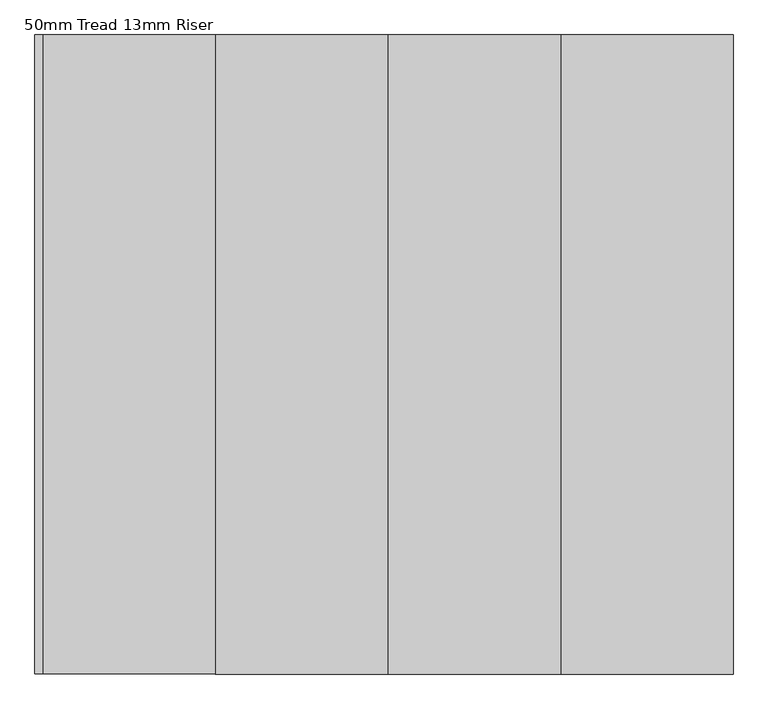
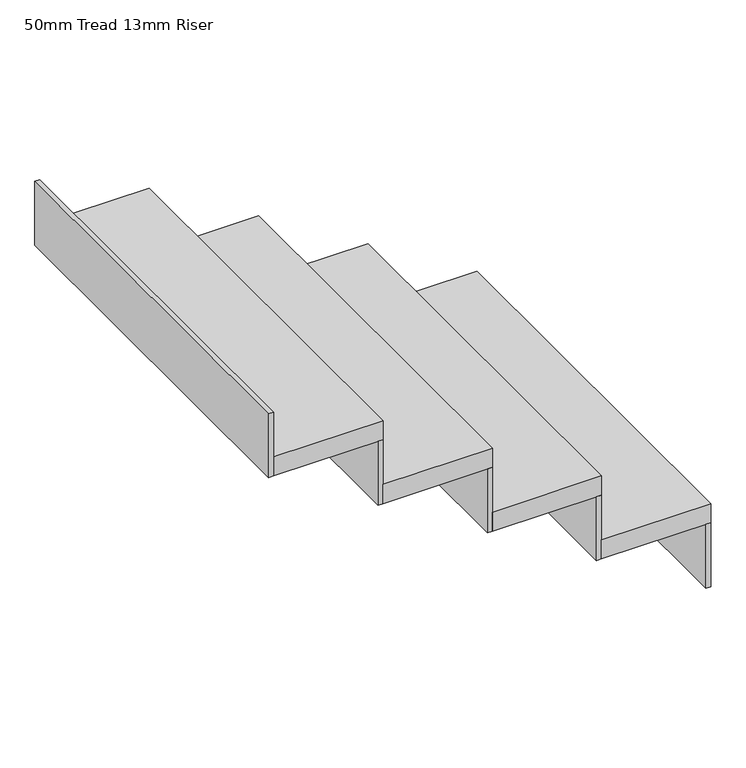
"""IFC4 building model written with IfcOpenShell, lengths in millimetres: stair flight geometry, 50mm Tread 13mm Riser."""

from ifc_helpers import new_model, si_unit, frame, origin, place, context, project, spatial, polyline, outline, extrude, source, transform, mapped, element, save


def stair_flight_50mm_tread_13mm_riser_ea8bbd4d(model_context):
    return source(origin(), model_context, "Body", "SweptSolid", [
        extrude(outline(polyline([(-111901.4400112, 13172.4703498), (-111888.9400112, 13172.4703498), (-111888.9400112, 12172.4703498), (-111901.4400112, 12172.4703498), (-111901.4400112, 13172.4703498)])), frame((0.0, 0.0, 47120.0), z_axis=(0.0, 0.0, 1.0), x_axis=(1.0, 0.0, 0.0)), (0.0, 0.0, 1.0), 166.6666667),
        extrude(outline(polyline([(-112158.9400112, 12172.4703498), (-112158.9400112, 13172.4703498), (-111888.9400112, 13172.4703498), (-111888.9400112, 12172.4703498), (-112158.9400112, 12172.4703498)])), frame((0.0, 0.0, 47286.6666667), z_axis=(0.0, 0.0, 1.0), x_axis=(1.0, 0.0, 0.0)), (0.0, 0.0, 1.0), 50.0),
        extrude(outline(polyline([(-112171.4400112, 13172.4703498), (-112158.9400112, 13172.4703498), (-112158.9400112, 12172.4703498), (-112171.4400112, 12172.4703498), (-112171.4400112, 13172.4703498)])), frame((0.0, 0.0, 47286.6666667), z_axis=(0.0, 0.0, 1.0), x_axis=(1.0, 0.0, 0.0)), (0.0, 0.0, 1.0), 166.6666667),
        extrude(outline(polyline([(-112428.9400112, 12172.4703498), (-112428.9400112, 13172.4703498), (-112158.9400112, 13172.4703498), (-112158.9400112, 12172.4703498), (-112428.9400112, 12172.4703498)])), frame((0.0, 0.0, 47453.3333333), z_axis=(0.0, 0.0, 1.0), x_axis=(1.0, 0.0, 0.0)), (0.0, 0.0, 1.0), 50.0),
        extrude(outline(polyline([(-112441.4400112, 13172.4703498), (-112428.9400112, 13172.4703498), (-112428.9400112, 12172.4703498), (-112441.4400112, 12172.4703498), (-112441.4400112, 13172.4703498)])), frame((0.0, 0.0, 47453.3333333), z_axis=(0.0, 0.0, 1.0), x_axis=(1.0, 0.0, 0.0)), (0.0, 0.0, 1.0), 166.6666667),
        extrude(outline(polyline([(-112698.9400112, 12172.4703498), (-112698.9400112, 13172.4703498), (-112428.9400112, 13172.4703498), (-112428.9400112, 12172.4703498), (-112698.9400112, 12172.4703498)])), frame((0.0, 0.0, 47620.0), z_axis=(0.0, 0.0, 1.0), x_axis=(1.0, 0.0, 0.0)), (0.0, 0.0, 1.0), 50.0),
        extrude(outline(polyline([(-112711.4400112, 13172.4703498), (-112698.9400112, 13172.4703498), (-112698.9400112, 12172.4703498), (-112711.4400112, 12172.4703498), (-112711.4400112, 13172.4703498)])), frame((0.0, 0.0, 47620.0), z_axis=(0.0, 0.0, 1.0), x_axis=(1.0, 0.0, 0.0)), (0.0, 0.0, 1.0), 166.6666667),
        extrude(outline(polyline([(-112981.4400112, 13172.4703498), (-112968.9400112, 13172.4703498), (-112968.9400112, 12172.4703498), (-112981.4400112, 12172.4703498), (-112981.4400112, 13172.4703498)])), frame((0.0, 0.0, 47786.6666667), z_axis=(0.0, 0.0, 1.0), x_axis=(1.0, 0.0, 0.0)), (0.0, 0.0, 1.0), 166.6666667),
        extrude(outline(polyline([(-112968.9400112, 12172.4703498), (-112968.9400112, 13172.4703498), (-112698.9400112, 13172.4703498), (-112698.9400112, 12172.4703498), (-112968.9400112, 12172.4703498)])), frame((0.0, 0.0, 47786.6666667), z_axis=(0.0, 0.0, 1.0), x_axis=(1.0, 0.0, 0.0)), (0.0, 0.0, 1.0), 50.0),
    ])


if __name__ == "__main__":
    model = new_model("IFC4")
    model_context = context("Model", 3, world=origin())
    ifc_project = project(units=[si_unit("LENGTHUNIT", "METRE", prefix="MILLI")], contexts=[model_context])
    site = spatial("IfcSite", under=ifc_project)
    building = spatial("IfcBuilding", under=site)
    placement = place(None, origin())
    stair_flight_50mm_tread_13mm_riser_shape = stair_flight_50mm_tread_13mm_riser_ea8bbd4d(model_context)
    element("IfcStairFlight", 1, ObjectType="50mm Tread 13mm Riser", at=placement, inside=building, context=model_context, shape_type="MappedRepresentation", body=[
        mapped(stair_flight_50mm_tread_13mm_riser_shape, transform((0.0, 0.0, 0.0), x_axis=(1.0, 0.0, 0.0), y_axis=(0.0, 1.0, 0.0), z_axis=(0.0, 0.0, 1.0))),
    ])
    save(model, "model.ifc")
